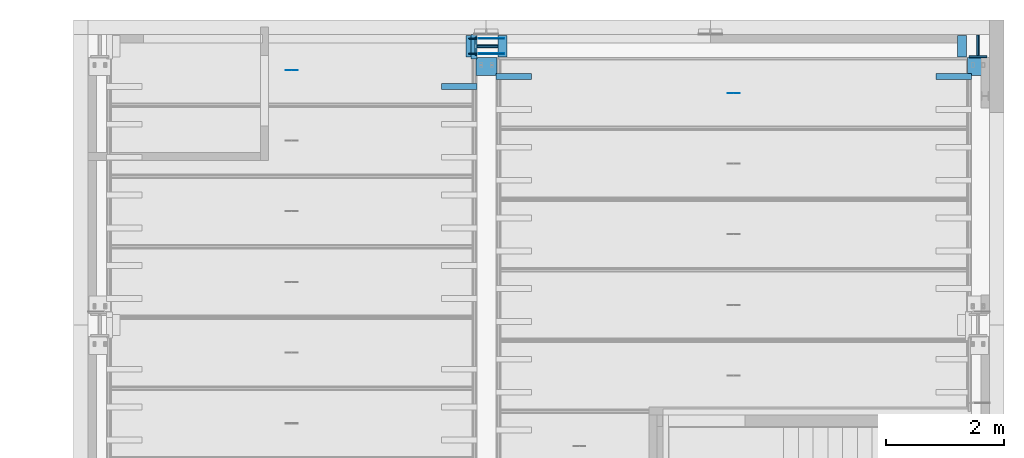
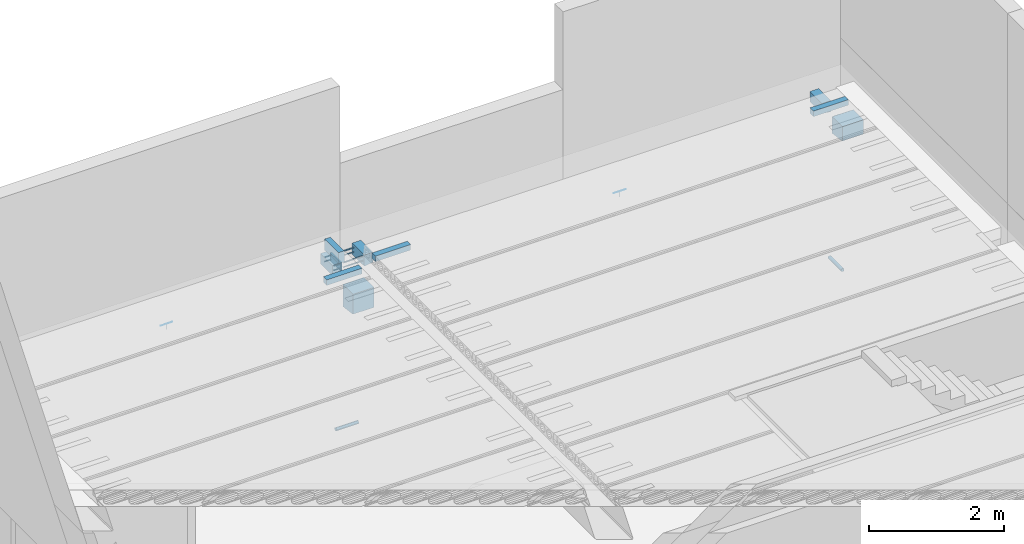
# One storey, part 29 of 230: 25 beams.
"""IFC4X3_ADD2 building model written with IfcOpenShell, lengths in millimetres."""

from ifc_helpers import new_model, entity, si_unit, direction, frame, frame_2d, origin_with_axes, place, context, subcontext, project, spatial, indexed_curve, rectangle, hollow_circle, outline, extrude, material, element, save


model = new_model("IFC4X3_ADD2")

# Units and contexts
model_context = context("Model", 3, precision=1e-05, world=origin_with_axes(), true_north=direction((0.0, 1.0)))
body_context = subcontext(model_context, "Body", "Model", "MODEL_VIEW")
ifc_project = project(units=[si_unit("LENGTHUNIT", "METRE", prefix="MILLI"), si_unit("AREAUNIT", "SQUARE_METRE"), si_unit("VOLUMEUNIT", "CUBIC_METRE"), si_unit("PLANEANGLEUNIT", "RADIAN"), si_unit("TIMEUNIT", "SECOND"), si_unit("MASSUNIT", "GRAM")], contexts=[model_context])

# Site, building, storey
site_placement = place(None, origin_with_axes())
site = spatial("IfcSite", under=ifc_project, at=site_placement, Name="Site", CompositionType="ELEMENT")
building_placement = place(site_placement, origin_with_axes())
building = spatial("IfcBuilding", under=site, at=building_placement, Name="IFC Building Story")
storey_placement = place(building_placement, origin_with_axes())
storey = spatial("IfcBuildingStorey", under=building, at=storey_placement, Name="ETAGE 00 (0)", Elevation=0.0)

# Beams
ifc_material_1 = material(Name="STEEL/Accessory_C50/60 64192")
beam_1_placement = place(storey_placement, frame((48131.188873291, 26009.9989624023, 3540.0), z_axis=(1.0, 0.0, 0.0), x_axis=(0.0, 0.0, 1.0)))
element("IfcBeam", 1, at=beam_1_placement, inside=storey, material=ifc_material_1, Name="BEK1", ObjectType="CORBEL300-300-260", context=body_context, shape_type="SweptSolid", body=[
    extrude(entity("IfcTrapeziumProfileDef", "AREA", None, entity("IfcAxis2Placement2D", entity("IfcCartesianPoint", [0.0, 5.95523630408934e-12]), entity("IfcDirection", [1.0, 0.0])), 300.0, 260.0, 300.0, 40.0), origin_with_axes(), (0.0, 0.0, 1.0), 360.0),
])
beam_2_placement = place(storey_placement, frame((48041.188873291, 26534.9989624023, 3875.0), z_axis=(0.0, -1.0, 0.0), x_axis=(0.0, 0.0, 1.0)))
element("IfcBeam", 2, at=beam_2_placement, inside=storey, material=ifc_material_1, Name="BEK1", ObjectType="CORBEL200-150-180", context=body_context, shape_type="SweptSolid", body=[
    extrude(entity("IfcTrapeziumProfileDef", "AREA", None, entity("IfcAxis2Placement2D", entity("IfcCartesianPoint", [0.0, 5.95523630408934e-12]), entity("IfcDirection", [1.0, 0.0])), 200.0, 180.0, 150.0, 19.9999999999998), origin_with_axes(), (0.0, 0.0, 1.0), 360.0),
])
beam_3_placement = place(storey_placement, frame((39786.1887207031, 26009.9989624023, 3390.0), z_axis=(1.0, 0.0, 0.0), x_axis=(0.0, 0.0, 1.0)))
element("IfcBeam", 3, at=beam_3_placement, inside=storey, material=ifc_material_1, Name="BEK1", ObjectType="CORBEL400-300-360", context=body_context, shape_type="SweptSolid", body=[
    extrude(entity("IfcTrapeziumProfileDef", "AREA", None, entity("IfcAxis2Placement2D", entity("IfcCartesianPoint", [0.0, 5.95523630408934e-12]), entity("IfcDirection", [1.0, 0.0])), 400.0, 360.0, 300.0, 40.0), origin_with_axes(), (0.0, 0.0, 1.0), 360.0),
])
for number, where, z_axis, x_axis, name in (
    (4, (40236.1887207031, 26174.9989624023, 3875.0), (0.0, 1.0, 0.0), (0.0, 0.0, 1.0), "BEK1"),
    (5, (39696.1887207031, 26534.9989624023, 3875.0), (0.0, -1.0, 0.0), (0.0, 0.0, 1.0), "BEK1"),
):
    element("IfcBeam", number, at=place(storey_placement, frame(where, z_axis=z_axis, x_axis=x_axis)), inside=storey, material=ifc_material_1, Name=name, ObjectType="CORBEL200-150-180", context=body_context, shape_type="SweptSolid", body=[
        extrude(entity("IfcTrapeziumProfileDef", "AREA", None, entity("IfcAxis2Placement2D", entity("IfcCartesianPoint", [0.0, 5.95523630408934e-12]), entity("IfcDirection", [1.0, 0.0])), 200.0, 180.0, 150.0, 19.9999999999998), origin_with_axes(), (0.0, 0.0, 1.0), 360.0),
    ])
ifc_material_2 = material(Name="STEEL/Accessory_invisible")
beam_4_placement = place(storey_placement, frame((39701.1890000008, 26345.0009155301, 4100.0), z_axis=(1.0, 0.0, 0.0), x_axis=(0.0, 0.0, -1.0)))
element("IfcBeam", 6, at=beam_4_placement, inside=storey, material=ifc_material_2, Name="ES32", ObjectType="200*410", context=body_context, shape_type="SweptSolid", body=[
    extrude(rectangle(XDim=200.0, YDim=410.000000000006, at=frame_2d((0.0, 5.95523630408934e-12), x_axis=(1.0, 0.0))), origin_with_axes(), (0.0, 0.0, 1.0), 100.0),
])
beam_5_placement = place(storey_placement, frame((39801.1890000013, 25670.000915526, 4150.0), z_axis=(-1.0, 0.0, 0.0), x_axis=(0.0, -1.0, 0.0)))
element("IfcBeam", 7, at=beam_5_placement, inside=storey, material=ifc_material_2, Name="ES7", ObjectType="100*100", context=body_context, shape_type="SweptSolid", body=[
    extrude(rectangle(XDim=100.0, YDim=99.99999999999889, at=frame_2d((0.0, 5.95523630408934e-12), x_axis=(1.0, 0.0))), origin_with_axes(), (0.0, 0.0, 1.0), 600.0),
])
ifc_material_3 = material(Name="STEEL/Accessory_invisible 261")
beam_6_placement = place(storey_placement, frame((36659.1890000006, 25950.0009155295, 4049.9999909), z_axis=(-1.0, 0.0, 0.0), x_axis=(0.0, 0.0, -1.0)))
element("IfcBeam", 8, at=beam_6_placement, inside=storey, material=ifc_material_3, Name="ES6", ObjectType="1*1 2", context=body_context, shape_type="SweptSolid", body=[
    extrude(rectangle(XDim=100.0, YDim=0.9999999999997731, at=frame_2d((0.0, 5.95523630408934e-12), x_axis=(1.0, 0.0))), origin_with_axes(), (0.0, 0.0, 1.0), 1.0),
])
beam_7_placement = place(storey_placement, frame((36758.6890000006, 25950.0009155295, 4100.0), z_axis=(-1.0, 0.0, 0.0), x_axis=(0.0, 1.0, 0.0)))
element("IfcBeam", 9, at=beam_7_placement, inside=storey, material=ifc_material_3, Name="ES31", ObjectType="1*1 3", context=body_context, shape_type="SweptSolid", body=[
    extrude(rectangle(XDim=0.9999999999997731, YDim=0.9999999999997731, at=frame_2d((0.0, 5.95523630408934e-12), x_axis=(1.0, 0.0))), origin_with_axes(), (0.0, 0.0, 1.0), 199.9999999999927),
])
ifc_material_4 = material(Name="STEEL/Accessory_EPS")
beam_8_placement = place(storey_placement, frame((48461.188873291, 26174.9989624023, 3545.00000000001), z_axis=(-1.0, 0.0, 0.0), x_axis=(0.0, 0.0, -1.0)))
element("IfcBeam", 10, at=beam_8_placement, inside=storey, material=ifc_material_4, Name="POL4", ObjectType="30*300", context=body_context, shape_type="SweptSolid", body=[
    extrude(rectangle(XDim=250.0, YDim=30.0000000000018, at=frame_2d((0.0, 5.95523630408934e-12), x_axis=(1.0, 0.0))), origin_with_axes(), (0.0, 0.0, 1.0), 300.0),
])
ifc_material_5 = material(Name="STEEL/Accessory_PVC")
beam_9_placement = place(storey_placement, frame((48311.188873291, 26162.9989623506, 860.0), z_axis=(0.0, 1.0, 0.0), x_axis=(1.0, 0.0, 0.0)))
element("IfcBeam", 11, at=beam_9_placement, inside=storey, material=ifc_material_5, Name="PS13", ObjectType="O56*3", context=body_context, shape_type="SweptSolid", body=[
    extrude(hollow_circle(Radius=28.0, WallThickness=3.0, at=frame_2d((0.0, 5.95523630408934e-12), x_axis=(1.0, 0.0))), origin_with_axes(), (0.0, 0.0, 1.0), 384.0),
])
beam_10_placement = place(storey_placement, frame((39771.1887207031, 26354.9989624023, 3880.0), z_axis=(1.0, 0.0, 0.0), x_axis=(0.0, 0.0, -1.0)))
element("IfcBeam", 12, at=beam_10_placement, inside=storey, material=ifc_material_4, Name="POL4", ObjectType="30*300 3", context=body_context, shape_type="SweptSolid", body=[
    extrude(rectangle(XDim=150.0, YDim=300.000000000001, at=frame_2d((0.0, 5.95523630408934e-12), x_axis=(1.0, 0.0))), origin_with_axes(), (0.0, 0.0, 1.0), 29.99999999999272),
])
ifc_material_6 = material(Name="STEEL/Accessory")
for number, where, z_axis, x_axis, name in (
    (13, (40261.18872070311, 26225.9989624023, 3924.0), (-1.0, 0.0, 0.0), (0.0, -0.3826834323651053, -0.9238795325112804), "SD12"),
    (14, (40261.18872070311, 26483.9989624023, 3924.000000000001), (-1.0, 0.0, 0.0), (0.0, 0.3826834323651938, 0.9238795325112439), "SD12"),
):
    element("IfcBeam", number, at=place(storey_placement, frame(where, z_axis=z_axis, x_axis=x_axis)), inside=storey, material=ifc_material_6, Name=name, ObjectType="D19", context=body_context, shape_type="SweptSolid", body=[
        extrude(outline(indexed_curve([(-3.635492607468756, -8.776855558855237), (-8.776855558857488, -3.635492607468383), (-8.776855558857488, 3.635492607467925), (-3.635492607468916, 8.776855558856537), (3.635492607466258, 8.776855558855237), (8.776855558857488, 3.635492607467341), (8.77685555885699, -3.635492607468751), (3.635492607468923, -8.776855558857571), (-3.635492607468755, -8.776855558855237)])), origin_with_axes(), (0.0, 0.0, 1.0), 420.0000000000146),
    ])
for number, where, z_axis, x_axis, name in (
    (15, (40266.18872070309, 26485.9989624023, 3843.999999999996), (-1.0, 0.0, 0.0), (0.0, 0.3826834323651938, 0.9238795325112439), "SD12"),
    (16, (40266.18872070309, 26223.99896240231, 3844.0), (-1.0, 0.0, 0.0), (0.0, -0.3826834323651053, -0.9238795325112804), "SD12"),
):
    element("IfcBeam", number, at=place(storey_placement, frame(where, z_axis=z_axis, x_axis=x_axis)), inside=storey, material=ifc_material_6, Name=name, ObjectType="D15", context=body_context, shape_type="SweptSolid", body=[
        extrude(outline(indexed_curve([(2.87012574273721, 6.929096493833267), (6.929096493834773, 2.87012574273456), (6.929096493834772, -2.870125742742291), (2.870125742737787, -6.929096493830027), (-2.870125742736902, -6.929096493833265), (-6.92909649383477, -2.870125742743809), (-6.929096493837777, 2.870125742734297), (-2.870125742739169, 6.929096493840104), (2.870125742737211, 6.929096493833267)])), origin_with_axes(), (0.0, 0.0, 1.0), 434.9999999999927),
    ])
for number, where, z_axis, x_axis, name in (
    (17, (39796.18872070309, 26225.9989624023, 3924.0), (-1.0, 0.0, 0.0), (0.0, -0.3826834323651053, -0.9238795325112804), "SD12"),
    (18, (39796.18872070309, 26483.9989624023, 3924.000000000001), (-1.0, 0.0, 0.0), (0.0, 0.3826834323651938, 0.9238795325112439), "SD12"),
):
    element("IfcBeam", number, at=place(storey_placement, frame(where, z_axis=z_axis, x_axis=x_axis)), inside=storey, material=ifc_material_6, Name=name, ObjectType="D19", context=body_context, shape_type="SweptSolid", body=[
        extrude(outline(indexed_curve([(-3.635492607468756, -8.776855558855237), (-8.776855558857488, -3.635492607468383), (-8.776855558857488, 3.635492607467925), (-3.635492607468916, 8.776855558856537), (3.635492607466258, 8.776855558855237), (8.776855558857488, 3.635492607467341), (8.77685555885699, -3.635492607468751), (3.635492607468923, -8.776855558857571), (-3.635492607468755, -8.776855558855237)])), origin_with_axes(), (0.0, 0.0, 1.0), 124.9999999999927),
    ])
for number, where, z_axis, x_axis, name in (
    (19, (39796.18872070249, 26223.99896240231, 3844.0), (-1.0, 0.0, 0.0), (0.0, -0.3826834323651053, -0.9238795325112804), "SD12"),
    (20, (39796.18872070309, 26485.9989624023, 3843.999999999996), (-1.0, 0.0, 0.0), (0.0, 0.3826834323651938, 0.9238795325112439), "SD12"),
):
    element("IfcBeam", number, at=place(storey_placement, frame(where, z_axis=z_axis, x_axis=x_axis)), inside=storey, material=ifc_material_6, Name=name, ObjectType="D15", context=body_context, shape_type="SweptSolid", body=[
        extrude(outline(indexed_curve([(2.87012574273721, 6.929096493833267), (6.929096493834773, 2.87012574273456), (6.929096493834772, -2.870125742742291), (2.870125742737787, -6.929096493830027), (-2.870125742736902, -6.929096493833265), (-6.92909649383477, -2.870125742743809), (-6.929096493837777, 2.870125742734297), (-2.870125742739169, 6.929096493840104), (2.870125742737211, 6.929096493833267)])), origin_with_axes(), (0.0, 0.0, 1.0), 129.9999999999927),
    ])
beam_11_placement = place(storey_placement, frame((39774.1887207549, 26354.9989624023, 860.0), z_axis=(1.0, 0.0, 0.0), x_axis=(0.0, 0.0, -1.0)))
element("IfcBeam", 21, at=beam_11_placement, inside=storey, material=ifc_material_5, Name="PS13", ObjectType="O56*3", context=body_context, shape_type="SweptSolid", body=[
    extrude(hollow_circle(Radius=28.0, WallThickness=3.0, at=frame_2d((0.0, 5.95523630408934e-12), x_axis=(1.0, 0.0))), origin_with_axes(), (0.0, 0.0, 1.0), 384.0),
])
for number, where, z_axis, x_axis, name in (
    (22, (40731.189, 25840.0006103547, 4150.0), (-1.0, 0.0, 0.0), (0.0, 1.0, 0.0), "ES7"),
    (23, (48196.18900000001, 25840.0006103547, 4150.0), (-1.0, 0.0, 0.0), (0.0, -1.0, 0.0), "ES7"),
):
    element("IfcBeam", number, at=place(storey_placement, frame(where, z_axis=z_axis, x_axis=x_axis)), inside=storey, material=ifc_material_2, Name=name, ObjectType="100*100", context=body_context, shape_type="SweptSolid", body=[
        extrude(rectangle(XDim=100.0, YDim=99.99999999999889, at=frame_2d((0.0, 5.95523630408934e-12), x_axis=(1.0, 0.0))), origin_with_axes(), (0.0, 0.0, 1.0), 600.0),
    ])
beam_12_placement = place(storey_placement, frame((44164.189, 25560.0006103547, 4049.9999909), z_axis=(-1.0, 0.0, 0.0), x_axis=(0.0, 0.0, -1.0)))
element("IfcBeam", 24, at=beam_12_placement, inside=storey, material=ifc_material_3, Name="ES6", ObjectType="1*1 2", context=body_context, shape_type="SweptSolid", body=[
    extrude(rectangle(XDim=100.0, YDim=0.9999999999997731, at=frame_2d((0.0, 5.95523630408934e-12), x_axis=(1.0, 0.0))), origin_with_axes(), (0.0, 0.0, 1.0), 1.0),
])
beam_13_placement = place(storey_placement, frame((44263.689, 25560.0006103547, 4100.0), z_axis=(-1.0, 0.0, 0.0), x_axis=(0.0, 1.0, 0.0)))
element("IfcBeam", 25, at=beam_13_placement, inside=storey, material=ifc_material_3, Name="ES31", ObjectType="1*1 3", context=body_context, shape_type="SweptSolid", body=[
    extrude(rectangle(XDim=0.9999999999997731, YDim=0.9999999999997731, at=frame_2d((0.0, 5.95523630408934e-12), x_axis=(1.0, 0.0))), origin_with_axes(), (0.0, 0.0, 1.0), 199.9999999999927),
])

save(model, "model.ifc")
